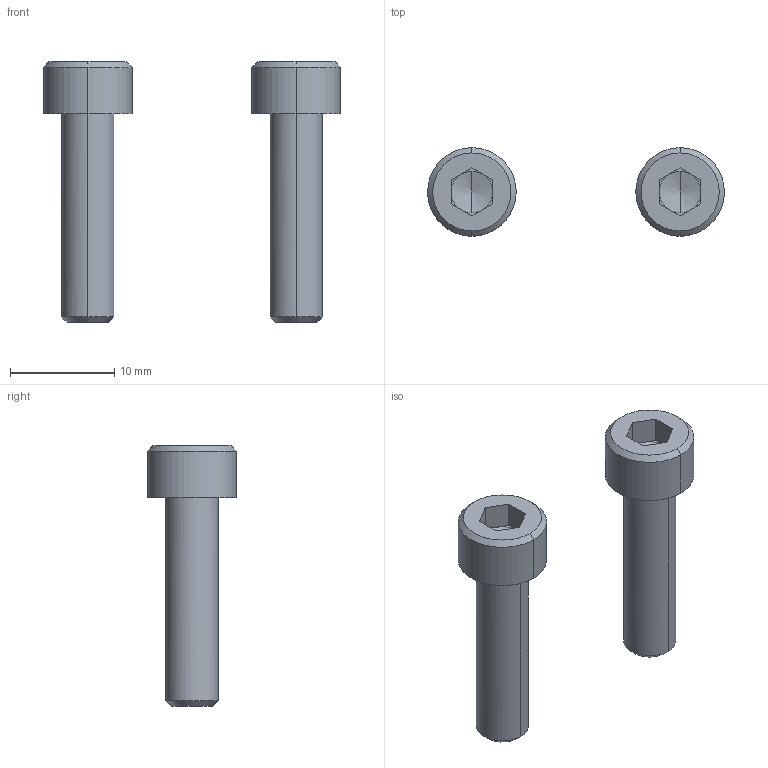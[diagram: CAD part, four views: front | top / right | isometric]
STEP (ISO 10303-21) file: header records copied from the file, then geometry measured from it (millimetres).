
FILE_DESCRIPTION(/* description */ (''),/* implementation_level */ '2;1');
FILE_NAME(/* name */ '8.x-drive#8.3#CB5-20',/* time_stamp */ '2014-12-01T20:18:01+01:00',/* author */ (''),/* organization */ (''),/* preprocessor_version */ 'ST-DEVELOPER v14',/* originating_system */ '',/* authorisation */ '');
FILE_SCHEMA (('AUTOMOTIVE_DESIGN'));
Length unit declared in the file: millimetre
Products named in the file (2): Document; screw DIN912-like, M5x20
Assembly tree (2 placements, depth 2):
  Document
    screw DIN912-like, M5x20  x2
Bounding box: 28.49 x 8.5 x 25 mm (x, y, z)
Volume: 1273.3 mm3; surface area: 1167.4 mm2
Topology: 2 solids, 2 shells, 50 faces, 112 edges, 66 vertices
Faces by surface type: plane 30, bspline 20
Entity records: 1413 total; most frequent: CARTESIAN_POINT 633, B_SPLINE_CURVE_WITH_KNOTS 126, ORIENTED_EDGE 108, PCURVE 108, DEFINITIONAL_REPRESENTATION 108, SURFACE_CURVE 54, EDGE_CURVE 54, VERTEX_POINT 33
